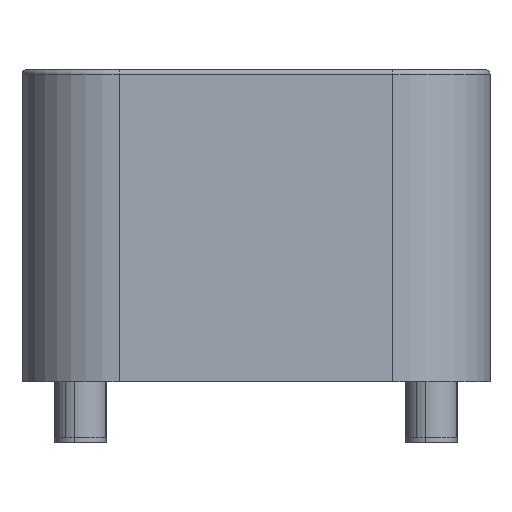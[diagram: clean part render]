
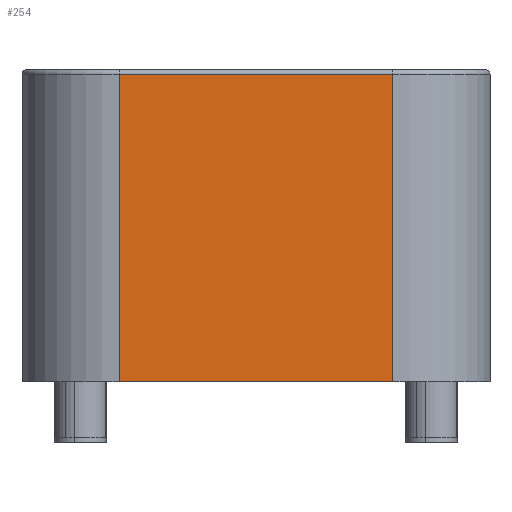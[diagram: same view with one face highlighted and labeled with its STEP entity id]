
A CAD part, front view. The second image highlights one B-rep face of the part: STEP entity #254.
In plain terms, the highlighted planar face has unit normal (0, -1, 0).
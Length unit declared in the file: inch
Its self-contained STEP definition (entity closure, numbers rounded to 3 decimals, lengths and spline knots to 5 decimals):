
#106 = VERTEX_POINT ( 'NONE', #5456 ) ;
#254 = ADVANCED_FACE ( 'NONE', ( #4237 ), #2411, .T. ) ;
#1059 = CARTESIAN_POINT ( 'NONE',  ( -0.438, -1.875, -0.015 ) ) ;
#1101 = CARTESIAN_POINT ( 'NONE',  ( -0.438, -1.875, -1. ) ) ;
#1227 = CARTESIAN_POINT ( 'NONE',  ( 0.438, -1.875, -1. ) ) ;
#1233 = CARTESIAN_POINT ( 'NONE',  ( 0.438, -1.875, -0.015 ) ) ;
#1485 = EDGE_CURVE ( 'NONE', #106, #6937, #4005, .T. ) ;
#1770 = EDGE_CURVE ( 'NONE', #5196, #106, #5788, .T. ) ;
#2038 = ORIENTED_EDGE ( 'NONE', *, *, #1485, .T. ) ;
#2343 = VERTEX_POINT ( 'NONE', #4674 ) ;
#2411 = PLANE ( 'NONE',  #6274 ) ;
#2827 = ORIENTED_EDGE ( 'NONE', *, *, #4871, .T. ) ;
#3698 = VECTOR ( 'NONE', #7964, 39.37008 ) ;
#3805 = DIRECTION ( 'NONE',  ( -1., 0., 0. ) ) ;
#4005 = LINE ( 'NONE', #1227, #3698 ) ;
#4237 = FACE_OUTER_BOUND ( 'NONE', #7049, .T. ) ;
#4266 = LINE ( 'NONE', #6214, #8056 ) ;
#4267 = DIRECTION ( 'NONE',  ( 0., 0., -1. ) ) ;
#4456 = VECTOR ( 'NONE', #3805, 39.37008 ) ;
#4462 = CARTESIAN_POINT ( 'NONE',  ( -0.75, -1.875, -1. ) ) ;
#4631 = DIRECTION ( 'NONE',  ( 0., -1., 0. ) ) ;
#4674 = CARTESIAN_POINT ( 'NONE',  ( -0.438, -1.875, -0.015 ) ) ;
#4871 = EDGE_CURVE ( 'NONE', #2343, #5196, #4266, .T. ) ;
#5196 = VERTEX_POINT ( 'NONE', #1101 ) ;
#5235 = ORIENTED_EDGE ( 'NONE', *, *, #5790, .T. ) ;
#5393 = ORIENTED_EDGE ( 'NONE', *, *, #1770, .T. ) ;
#5456 = CARTESIAN_POINT ( 'NONE',  ( 0.438, -1.875, -1. ) ) ;
#5788 = LINE ( 'NONE', #4462, #7747 ) ;
#5790 = EDGE_CURVE ( 'NONE', #6937, #2343, #6720, .T. ) ;
#6214 = CARTESIAN_POINT ( 'NONE',  ( -0.438, -1.875, -1. ) ) ;
#6274 = AXIS2_PLACEMENT_3D ( 'NONE', #8396, #4631, #7097 ) ;
#6720 = LINE ( 'NONE', #1059, #4456 ) ;
#6937 = VERTEX_POINT ( 'NONE', #1233 ) ;
#7022 = DIRECTION ( 'NONE',  ( 1., 0., 0. ) ) ;
#7049 = EDGE_LOOP ( 'NONE', ( #2038, #5235, #2827, #5393 ) ) ;
#7097 = DIRECTION ( 'NONE',  ( 0., 0., -1. ) ) ;
#7747 = VECTOR ( 'NONE', #7022, 39.37008 ) ;
#7964 = DIRECTION ( 'NONE',  ( 0., 0., 1. ) ) ;
#8056 = VECTOR ( 'NONE', #4267, 39.37008 ) ;
#8396 = CARTESIAN_POINT ( 'NONE',  ( -0.75, -1.875, -1. ) ) ;
